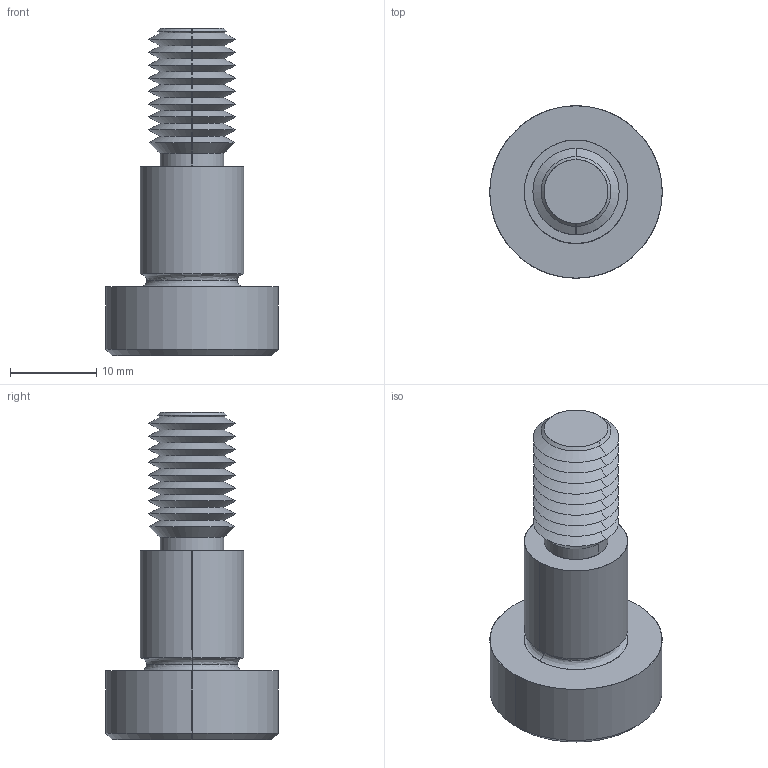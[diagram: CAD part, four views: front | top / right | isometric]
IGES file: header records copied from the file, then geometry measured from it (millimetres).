
Start section: SolidWorks IGES file using analytic representation for surfaces
Global section: file name: C:\Users\IanO\Documents\Temp Folder\GENERAL\SCREW REVISION\P0130_v2\P0130.T5_v2_20220106_IGES\P0130.120-014-T5.igs; native system: SolidWorks 2019; preprocessor: SolidWorks 2019; author: IanO; date: 220106.224526; units: millimetre
Bounding box: 20 x 20 x 38 mm (x, y, z)
Surface area: 2582.2 mm2 (no closed solid volume)
Topology: 0 solids, 0 shells, 76 faces, 564 edges, 562 vertices
Faces by surface type: revolution 56, bspline 20
